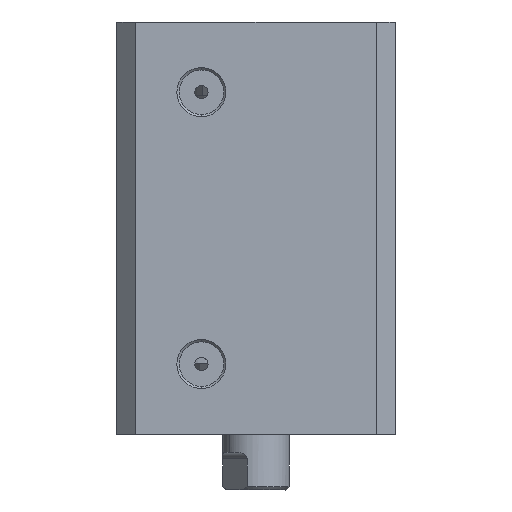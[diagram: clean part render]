
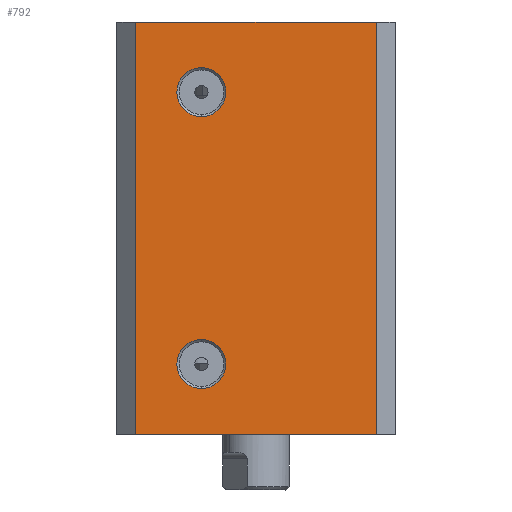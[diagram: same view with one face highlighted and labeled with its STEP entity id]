
A CAD part, front view. The second image highlights one B-rep face of the part: STEP entity #792.
In plain terms, the highlighted planar face has unit normal (0, -1, 0).
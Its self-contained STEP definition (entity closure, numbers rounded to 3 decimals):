
#17 = ORIENTED_EDGE ( 'NONE', *, *, #4916, .T. ) ;
#33 = EDGE_CURVE ( 'NONE', #977, #4849, #1549, .T. ) ;
#81 = ORIENTED_EDGE ( 'NONE', *, *, #33, .T. ) ;
#103 = EDGE_LOOP ( 'NONE', ( #853, #2349 ) ) ;
#205 = VERTEX_POINT ( 'NONE', #5949 ) ;
#240 = VERTEX_POINT ( 'NONE', #3411 ) ;
#392 = AXIS2_PLACEMENT_3D ( 'NONE', #1280, #4874, #1783 ) ;
#494 = CIRCLE ( 'NONE', #4486, 2.2 ) ;
#615 = DIRECTION ( 'NONE',  ( 0., 0., -1. ) ) ;
#719 = CARTESIAN_POINT ( 'NONE',  ( 1.7, -25., 37. ) ) ;
#792 = ADVANCED_FACE ( 'NONE', ( #6369, #891, #4839 ), #927, .T. ) ;
#853 = ORIENTED_EDGE ( 'NONE', *, *, #4098, .T. ) ;
#891 = FACE_BOUND ( 'NONE', #103, .T. ) ;
#927 = PLANE ( 'NONE',  #5129 ) ;
#973 = DIRECTION ( 'NONE',  ( 0., -1., 0. ) ) ;
#977 = VERTEX_POINT ( 'NONE', #4896 ) ;
#989 = EDGE_CURVE ( 'NONE', #240, #1778, #2643, .T. ) ;
#990 = VERTEX_POINT ( 'NONE', #3116 ) ;
#997 = DIRECTION ( 'NONE',  ( 0., 0., -1. ) ) ;
#1257 = LINE ( 'NONE', #6571, #1417 ) ;
#1280 = CARTESIAN_POINT ( 'NONE',  ( 7.6, -25., 30.7 ) ) ;
#1417 = VECTOR ( 'NONE', #2408, 1000. ) ;
#1549 = LINE ( 'NONE', #5580, #2884 ) ;
#1778 = VERTEX_POINT ( 'NONE', #4676 ) ;
#1783 = DIRECTION ( 'NONE',  ( 0., 0., -1. ) ) ;
#2041 = EDGE_CURVE ( 'NONE', #205, #990, #2487, .T. ) ;
#2201 = CARTESIAN_POINT ( 'NONE',  ( 1.7, -25., 37. ) ) ;
#2282 = LINE ( 'NONE', #2615, #3146 ) ;
#2349 = ORIENTED_EDGE ( 'NONE', *, *, #2041, .T. ) ;
#2408 = DIRECTION ( 'NONE',  ( 0., 0., -1. ) ) ;
#2487 = CIRCLE ( 'NONE', #3383, 2.2 ) ;
#2501 = ORIENTED_EDGE ( 'NONE', *, *, #5387, .F. ) ;
#2615 = CARTESIAN_POINT ( 'NONE',  ( 23.3, -25., 18.5 ) ) ;
#2643 = CIRCLE ( 'NONE', #4651, 2.2 ) ;
#2691 = EDGE_LOOP ( 'NONE', ( #17, #2501, #81, #4394 ) ) ;
#2828 = EDGE_LOOP ( 'NONE', ( #6475, #4786 ) ) ;
#2884 = VECTOR ( 'NONE', #5560, 1000. ) ;
#2903 = CARTESIAN_POINT ( 'NONE',  ( 7.6, -25., 6.3 ) ) ;
#2927 = DIRECTION ( 'NONE',  ( 0., 1., 0. ) ) ;
#2934 = VERTEX_POINT ( 'NONE', #5025 ) ;
#2949 = DIRECTION ( 'NONE',  ( 0., 0., -1. ) ) ;
#3116 = CARTESIAN_POINT ( 'NONE',  ( 7.6, -25., 4.1 ) ) ;
#3146 = VECTOR ( 'NONE', #615, 1000. ) ;
#3333 = VERTEX_POINT ( 'NONE', #3509 ) ;
#3383 = AXIS2_PLACEMENT_3D ( 'NONE', #2903, #2927, #2949 ) ;
#3411 = CARTESIAN_POINT ( 'NONE',  ( 7.6, -25., 32.9 ) ) ;
#3509 = CARTESIAN_POINT ( 'NONE',  ( 1.7, -25., 0. ) ) ;
#4098 = EDGE_CURVE ( 'NONE', #990, #205, #494, .T. ) ;
#4343 = CIRCLE ( 'NONE', #392, 2.2 ) ;
#4394 = ORIENTED_EDGE ( 'NONE', *, *, #5859, .T. ) ;
#4486 = AXIS2_PLACEMENT_3D ( 'NONE', #5994, #5403, #5069 ) ;
#4651 = AXIS2_PLACEMENT_3D ( 'NONE', #5164, #5188, #5194 ) ;
#4676 = CARTESIAN_POINT ( 'NONE',  ( 7.6, -25., 28.5 ) ) ;
#4786 = ORIENTED_EDGE ( 'NONE', *, *, #989, .T. ) ;
#4805 = VECTOR ( 'NONE', #6395, 1000. ) ;
#4839 = FACE_OUTER_BOUND ( 'NONE', #2691, .T. ) ;
#4840 = CARTESIAN_POINT ( 'NONE',  ( 12.5, -25., 0. ) ) ;
#4849 = VERTEX_POINT ( 'NONE', #2201 ) ;
#4874 = DIRECTION ( 'NONE',  ( 0., 1., 0. ) ) ;
#4896 = CARTESIAN_POINT ( 'NONE',  ( 23.3, -25., 37. ) ) ;
#4916 = EDGE_CURVE ( 'NONE', #3333, #2934, #6181, .T. ) ;
#5025 = CARTESIAN_POINT ( 'NONE',  ( 23.3, -25., 0. ) ) ;
#5069 = DIRECTION ( 'NONE',  ( 0., 0., -1. ) ) ;
#5129 = AXIS2_PLACEMENT_3D ( 'NONE', #719, #973, #997 ) ;
#5164 = CARTESIAN_POINT ( 'NONE',  ( 7.6, -25., 30.7 ) ) ;
#5188 = DIRECTION ( 'NONE',  ( 0., 1., 0. ) ) ;
#5194 = DIRECTION ( 'NONE',  ( 0., 0., -1. ) ) ;
#5387 = EDGE_CURVE ( 'NONE', #977, #2934, #2282, .T. ) ;
#5403 = DIRECTION ( 'NONE',  ( 0., 1., 0. ) ) ;
#5560 = DIRECTION ( 'NONE',  ( -1., 0., 0. ) ) ;
#5580 = CARTESIAN_POINT ( 'NONE',  ( 12.5, -25., 37. ) ) ;
#5859 = EDGE_CURVE ( 'NONE', #4849, #3333, #1257, .T. ) ;
#5949 = CARTESIAN_POINT ( 'NONE',  ( 7.6, -25., 8.5 ) ) ;
#5994 = CARTESIAN_POINT ( 'NONE',  ( 7.6, -25., 6.3 ) ) ;
#6181 = LINE ( 'NONE', #4840, #4805 ) ;
#6213 = EDGE_CURVE ( 'NONE', #1778, #240, #4343, .T. ) ;
#6369 = FACE_BOUND ( 'NONE', #2828, .T. ) ;
#6395 = DIRECTION ( 'NONE',  ( 1., 0., 0. ) ) ;
#6475 = ORIENTED_EDGE ( 'NONE', *, *, #6213, .T. ) ;
#6571 = CARTESIAN_POINT ( 'NONE',  ( 1.7, -25., 18.5 ) ) ;
